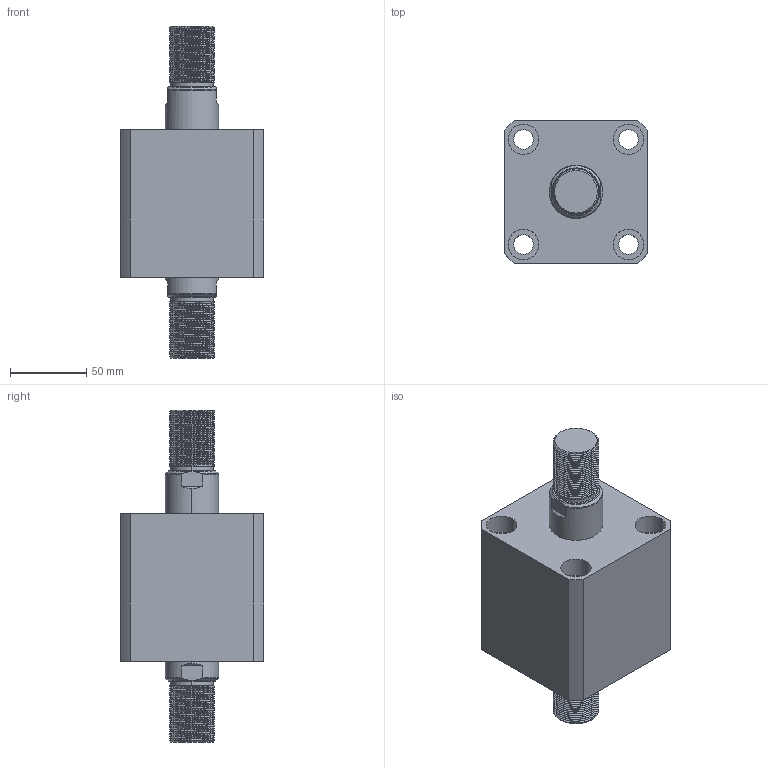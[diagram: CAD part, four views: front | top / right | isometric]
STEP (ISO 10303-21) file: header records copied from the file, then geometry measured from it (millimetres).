
FILE_DESCRIPTION (( 'STEP AP214' ), '1' );
FILE_NAME ('chtb-sw63x15w_asm.STEP', '2018-05-19T03:12:26', ( 'Windows' ), ( 'Microsoft' ), 'SwSTEP 2.0', 'SolidWorks 2015', '' );
FILE_SCHEMA (( 'AUTOMOTIVE_DESIGN' ));
Length unit declared in the file: millimetre
Products named in the file (4): CHTB-SW63X15WHSG; CHTB-SW63X15NBT; CHTB-63QG; chtb-sw63x15w_asm
Assembly tree (3 placements, depth 2):
  chtb-sw63x15w_asm
    CHTB-63QG
    CHTB-SW63X15NBT
    CHTB-SW63X15WHSG
Bounding box: 94 x 94 x 218 mm (x, y, z)
Volume: 833282.6 mm3; surface area: 142816.1 mm2
Topology: 3 solids, 3 shells, 296 faces, 841 edges, 569 vertices
Faces by surface type: cylinder 206, plane 46, bspline 16, cone 16, torus 12
Entity records: 27380 total; most frequent: CARTESIAN_POINT 20442, ORIENTED_EDGE 1674, DIRECTION 1166, EDGE_CURVE 837, VERTEX_POINT 569, AXIS2_PLACEMENT_3D 453, EDGE_LOOP 334, FACE_OUTER_BOUND 296
